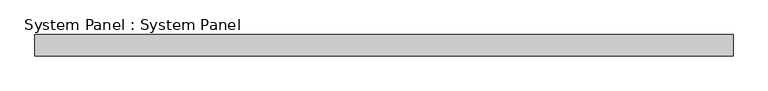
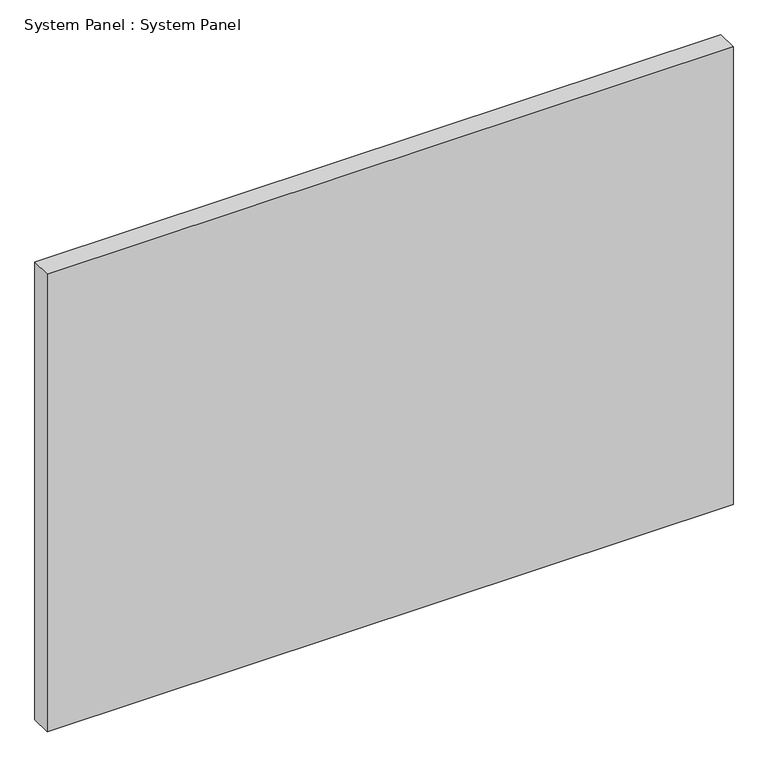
"""IFC4 building model written with IfcOpenShell, lengths in millimetres: plate geometry, System Panel : System Panel."""

from ifc_helpers import new_model, si_unit, origin, origin_with_axes, place, context, project, spatial, polyline, outline, extrude, source, transform, mapped, element, save


def system_panel_system_panel_0e6ba828(model_context):
    return source(origin(), model_context, "Body", "SweptSolid", [
        extrude(outline(polyline([(1659.872753, -50.8), (-1659.872753, -50.8), (-1659.872753, 50.8), (1659.872753, 50.8), (1659.872753, -50.8)])), origin_with_axes(), (0.0, 0.0, 1.0), 2343.15),
    ])


if __name__ == "__main__":
    model = new_model("IFC4")
    model_context = context("Model", 3, world=origin())
    ifc_project = project(units=[si_unit("LENGTHUNIT", "METRE", prefix="MILLI")], contexts=[model_context])
    site = spatial("IfcSite", under=ifc_project)
    building = spatial("IfcBuilding", under=site)
    placement = place(None, origin())
    system_panel_system_panel_shape = system_panel_system_panel_0e6ba828(model_context)
    element("IfcPlate", 1, ObjectType="System Panel : System Panel", at=placement, inside=building, context=model_context, shape_type="MappedRepresentation", body=[
        mapped(system_panel_system_panel_shape, transform((0.0, 0.0, 0.0), x_axis=(1.0, 0.0, 0.0), y_axis=(0.0, 1.0, 0.0), z_axis=(0.0, 0.0, 1.0))),
    ])
    save(model, "model.ifc")
